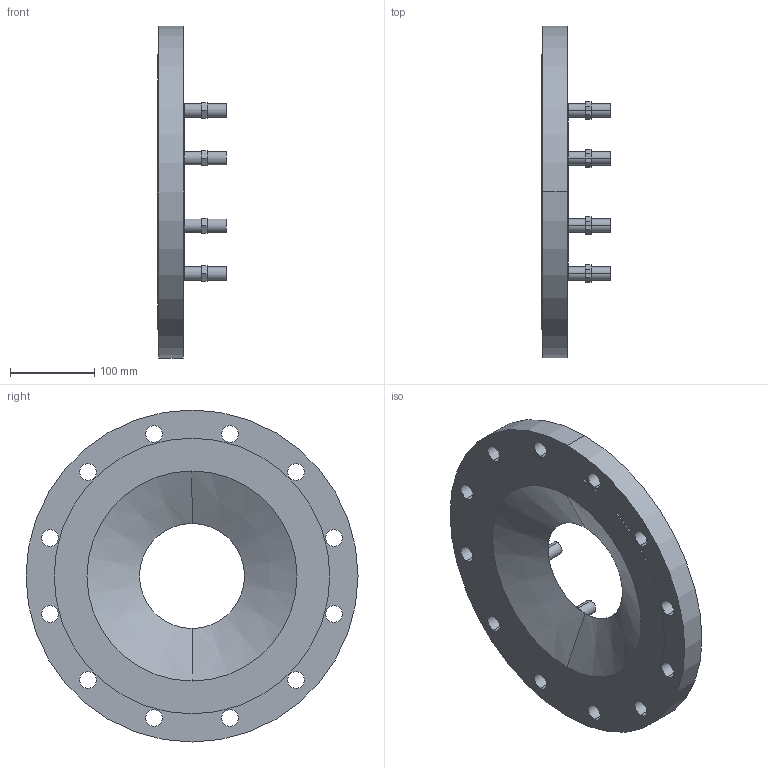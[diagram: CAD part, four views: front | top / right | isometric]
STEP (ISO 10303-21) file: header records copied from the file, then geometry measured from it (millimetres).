
FILE_DESCRIPTION(('STEP AP214'),'1');
FILE_NAME('S:/EK/USER/CAT6/3DHomepage_27-04-2012/VDI-Rohrsysteme_und_Stahlrohre/0802_(8110)/0802_PN10_DN250_DN125.STP','2013-01-25T08:14:12',(' '),(' '),'Spatial InterOp 3D',' ',' ');
FILE_SCHEMA(('automotive_design'));
Length unit declared in the file: millimetre
Products named in the file (18): 3D-Objekt
Bounding box: 81 x 395 x 395 mm (x, y, z)
Volume: 2764960 mm3; surface area: 367536.7 mm2
Topology: 18 solids, 18 shells, 135 faces, 294 edges, 196 vertices
Faces by surface type: plane 85, cylinder 48, cone 2
Entity records: 5260 total; most frequent: DIRECTION 700, CARTESIAN_POINT 643, ORIENTED_EDGE 588, EDGE_CURVE 294, AXIS2_PLACEMENT_3D 253, VERTEX_POINT 196, LINE 194, VECTOR 194
